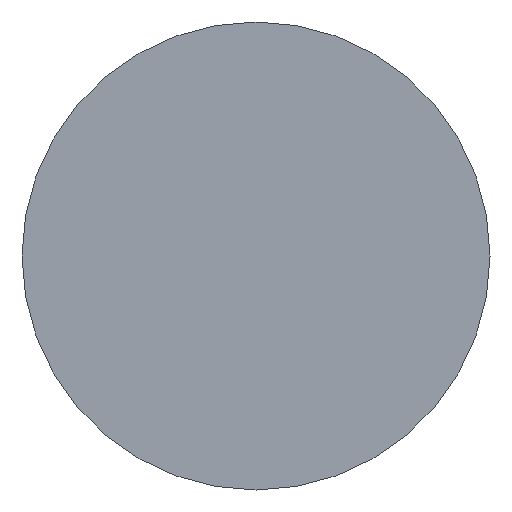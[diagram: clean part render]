
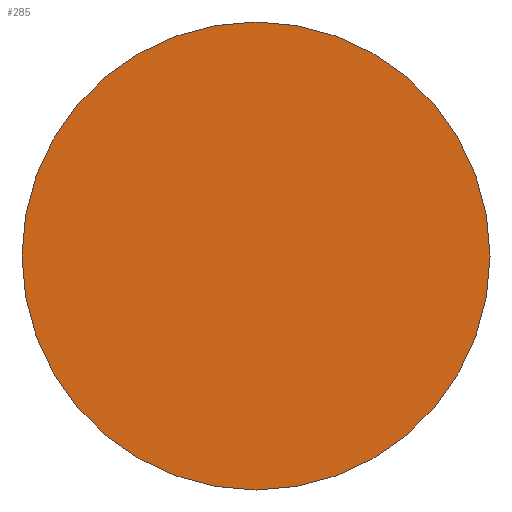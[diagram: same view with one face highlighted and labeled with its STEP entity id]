
A CAD part, front view. The second image highlights one B-rep face of the part: STEP entity #285.
In plain terms, the highlighted planar face has unit normal (0, -1, 0).
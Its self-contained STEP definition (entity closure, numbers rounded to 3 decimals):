
#126 = CYLINDRICAL_SURFACE('',#127,1.25);
#127 = AXIS2_PLACEMENT_3D('',#128,#129,#130);
#128 = CARTESIAN_POINT('',(74.1,0.,13.85));
#129 = DIRECTION('',(0.,1.,0.));
#130 = DIRECTION('',(0.,-0.,1.));
#181 = VERTEX_POINT('',#182);
#182 = CARTESIAN_POINT('',(74.1,0.,15.1));
#203 = EDGE_CURVE('',#181,#181,#204,.T.);
#204 = SURFACE_CURVE('',#205,(#210,#217),.PCURVE_S1.);
#205 = CIRCLE('',#206,1.25);
#206 = AXIS2_PLACEMENT_3D('',#207,#208,#209);
#207 = CARTESIAN_POINT('',(74.1,0.,13.85));
#208 = DIRECTION('',(0.,1.,0.));
#209 = DIRECTION('',(0.,-0.,1.));
#210 = PCURVE('',#126,#211);
#211 = DEFINITIONAL_REPRESENTATION('',(#212),#216);
#212 = LINE('',#213,#214);
#213 = CARTESIAN_POINT('',(0.,0.));
#214 = VECTOR('',#215,1.);
#215 = DIRECTION('',(1.,0.));
#216 = ( GEOMETRIC_REPRESENTATION_CONTEXT(2) 
PARAMETRIC_REPRESENTATION_CONTEXT() REPRESENTATION_CONTEXT('2D SPACE',''
  ) );
#217 = PCURVE('',#218,#223);
#218 = PLANE('',#219);
#219 = AXIS2_PLACEMENT_3D('',#220,#221,#222);
#220 = CARTESIAN_POINT('',(74.1,0.,13.85));
#221 = DIRECTION('',(0.,1.,0.));
#222 = DIRECTION('',(0.,-0.,1.));
#223 = DEFINITIONAL_REPRESENTATION('',(#224),#228);
#224 = CIRCLE('',#225,1.25);
#225 = AXIS2_PLACEMENT_2D('',#226,#227);
#226 = CARTESIAN_POINT('',(0.,0.));
#227 = DIRECTION('',(1.,0.));
#228 = ( GEOMETRIC_REPRESENTATION_CONTEXT(2) 
PARAMETRIC_REPRESENTATION_CONTEXT() REPRESENTATION_CONTEXT('2D SPACE',''
  ) );
#285 = ADVANCED_FACE('',(#286),#218,.F.);
#286 = FACE_BOUND('',#287,.F.);
#287 = EDGE_LOOP('',(#288));
#288 = ORIENTED_EDGE('',*,*,#203,.T.);
